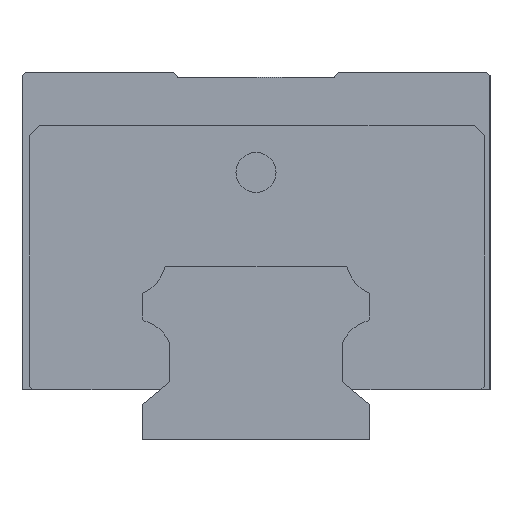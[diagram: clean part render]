
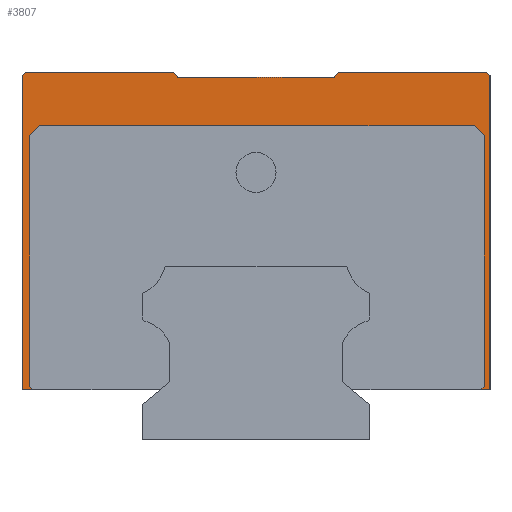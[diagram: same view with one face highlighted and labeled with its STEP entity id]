
A CAD part, left-side view. The second image highlights one B-rep face of the part: STEP entity #3807.
In plain terms, the highlighted planar face has unit normal (-1, 0, 0).
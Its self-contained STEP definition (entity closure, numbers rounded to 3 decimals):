
#7 = LINE ( 'NONE', #392, #1854 ) ;
#96 = VERTEX_POINT ( 'NONE', #3557 ) ;
#138 = CARTESIAN_POINT ( 'NONE',  ( -61.5, 35., 7.5 ) ) ;
#148 = DIRECTION ( 'NONE',  ( 0., 1., 0. ) ) ;
#189 = VERTEX_POINT ( 'NONE', #3499 ) ;
#211 = CARTESIAN_POINT ( 'NONE',  ( -61.5, 33.872, 8. ) ) ;
#259 = VECTOR ( 'NONE', #2197, 1000. ) ;
#335 = DIRECTION ( 'NONE',  ( 0., 0., 1. ) ) ;
#392 = CARTESIAN_POINT ( 'NONE',  ( -61.5, -32.628, 47. ) ) ;
#409 = CARTESIAN_POINT ( 'NONE',  ( -61.5, 32.372, 47. ) ) ;
#422 = LINE ( 'NONE', #3982, #4212 ) ;
#436 = CARTESIAN_POINT ( 'NONE',  ( -61.5, 34.5, 55. ) ) ;
#456 = DIRECTION ( 'NONE',  ( 0., 0.707, -0.707 ) ) ;
#488 = VERTEX_POINT ( 'NONE', #5396 ) ;
#492 = LINE ( 'NONE', #2287, #3975 ) ;
#551 = CARTESIAN_POINT ( 'NONE',  ( -61.5, -35., 55. ) ) ;
#599 = ORIENTED_EDGE ( 'NONE', *, *, #4643, .F. ) ;
#637 = LINE ( 'NONE', #2350, #1347 ) ;
#704 = DIRECTION ( 'NONE',  ( 0., -1., 0. ) ) ;
#712 = VERTEX_POINT ( 'NONE', #138 ) ;
#720 = VERTEX_POINT ( 'NONE', #2804 ) ;
#748 = ORIENTED_EDGE ( 'NONE', *, *, #955, .F. ) ;
#805 = CARTESIAN_POINT ( 'NONE',  ( -61.5, 33.872, 45.5 ) ) ;
#854 = ORIENTED_EDGE ( 'NONE', *, *, #1050, .T. ) ;
#920 = EDGE_CURVE ( 'NONE', #3016, #1708, #5131, .T. ) ;
#935 = LINE ( 'NONE', #2386, #4632 ) ;
#955 = EDGE_CURVE ( 'NONE', #1444, #3124, #422, .T. ) ;
#993 = EDGE_CURVE ( 'NONE', #1708, #1599, #7, .T. ) ;
#1050 = EDGE_CURVE ( 'NONE', #3634, #3124, #1764, .T. ) ;
#1082 = CARTESIAN_POINT ( 'NONE',  ( -61.5, 32.372, 47. ) ) ;
#1087 = ORIENTED_EDGE ( 'NONE', *, *, #3044, .F. ) ;
#1099 = ORIENTED_EDGE ( 'NONE', *, *, #2434, .F. ) ;
#1137 = VECTOR ( 'NONE', #5197, 1000. ) ;
#1139 = LINE ( 'NONE', #4700, #3875 ) ;
#1172 = LINE ( 'NONE', #1940, #2098 ) ;
#1203 = CARTESIAN_POINT ( 'NONE',  ( -61.5, -35., 55. ) ) ;
#1268 = EDGE_CURVE ( 'NONE', #3634, #96, #5562, .T. ) ;
#1293 = DIRECTION ( 'NONE',  ( 0., 0.707, 0.707 ) ) ;
#1323 = EDGE_LOOP ( 'NONE', ( #2546, #1572, #3893, #3979, #854, #748, #5055, #4167, #2096, #599, #4576, #5590, #3091, #1823, #1099, #1087, #3702, #4892 ) ) ;
#1347 = VECTOR ( 'NONE', #3260, 1000. ) ;
#1401 = DIRECTION ( 'NONE',  ( 0., 1., 0. ) ) ;
#1440 = CARTESIAN_POINT ( 'NONE',  ( -61.5, 11.667, 54.25 ) ) ;
#1444 = VERTEX_POINT ( 'NONE', #4057 ) ;
#1514 = EDGE_CURVE ( 'NONE', #720, #712, #935, .T. ) ;
#1553 = DIRECTION ( 'NONE',  ( 0., 0., 1. ) ) ;
#1572 = ORIENTED_EDGE ( 'NONE', *, *, #1634, .F. ) ;
#1599 = VERTEX_POINT ( 'NONE', #1082 ) ;
#1630 = EDGE_CURVE ( 'NONE', #712, #189, #1139, .T. ) ;
#1634 = EDGE_CURVE ( 'NONE', #5702, #488, #5117, .T. ) ;
#1708 = VERTEX_POINT ( 'NONE', #3492 ) ;
#1764 = LINE ( 'NONE', #5326, #4302 ) ;
#1823 = ORIENTED_EDGE ( 'NONE', *, *, #4560, .F. ) ;
#1854 = VECTOR ( 'NONE', #5799, 1000. ) ;
#1940 = CARTESIAN_POINT ( 'NONE',  ( -61.5, 35., 55. ) ) ;
#2017 = CARTESIAN_POINT ( 'NONE',  ( -61.5, -12.296, 55. ) ) ;
#2060 = EDGE_CURVE ( 'NONE', #1444, #2634, #5575, .T. ) ;
#2082 = CARTESIAN_POINT ( 'NONE',  ( -61.5, 12.296, 55. ) ) ;
#2085 = DIRECTION ( 'NONE',  ( 0., -0.707, 0.707 ) ) ;
#2096 = ORIENTED_EDGE ( 'NONE', *, *, #3700, .T. ) ;
#2098 = VECTOR ( 'NONE', #704, 1000. ) ;
#2141 = DIRECTION ( 'NONE',  ( 0., 1., 0. ) ) ;
#2150 = CARTESIAN_POINT ( 'NONE',  ( -61.5, -11.667, 54.25 ) ) ;
#2193 = AXIS2_PLACEMENT_3D ( 'NONE', #551, #3709, #148 ) ;
#2197 = DIRECTION ( 'NONE',  ( 0., 0.707, -0.707 ) ) ;
#2287 = CARTESIAN_POINT ( 'NONE',  ( -61.5, -35., 7.5 ) ) ;
#2305 = CARTESIAN_POINT ( 'NONE',  ( -61.5, -33.628, 7.5 ) ) ;
#2320 = EDGE_CURVE ( 'NONE', #3673, #189, #3251, .T. ) ;
#2349 = CARTESIAN_POINT ( 'NONE',  ( -61.5, -34.5, 55. ) ) ;
#2350 = CARTESIAN_POINT ( 'NONE',  ( -61.5, 11.667, 54.25 ) ) ;
#2379 = PLANE ( 'NONE',  #2193 ) ;
#2386 = CARTESIAN_POINT ( 'NONE',  ( -61.5, 14.65, 7.5 ) ) ;
#2434 = EDGE_CURVE ( 'NONE', #5616, #3608, #5184, .T. ) ;
#2529 = CARTESIAN_POINT ( 'NONE',  ( -61.5, -33.628, 7.5 ) ) ;
#2546 = ORIENTED_EDGE ( 'NONE', *, *, #5657, .F. ) ;
#2634 = VERTEX_POINT ( 'NONE', #2150 ) ;
#2742 = VERTEX_POINT ( 'NONE', #1440 ) ;
#2757 = VECTOR ( 'NONE', #2141, 1000. ) ;
#2804 = CARTESIAN_POINT ( 'NONE',  ( -61.5, 33.372, 7.5 ) ) ;
#2920 = VECTOR ( 'NONE', #335, 1000. ) ;
#2944 = LINE ( 'NONE', #211, #3034 ) ;
#3016 = VERTEX_POINT ( 'NONE', #4461 ) ;
#3034 = VECTOR ( 'NONE', #4615, 1000. ) ;
#3044 = EDGE_CURVE ( 'NONE', #1599, #5616, #4934, .T. ) ;
#3069 = VECTOR ( 'NONE', #4354, 1000. ) ;
#3081 = LINE ( 'NONE', #3496, #2757 ) ;
#3091 = ORIENTED_EDGE ( 'NONE', *, *, #1514, .F. ) ;
#3124 = VERTEX_POINT ( 'NONE', #2349 ) ;
#3251 = LINE ( 'NONE', #5458, #5742 ) ;
#3260 = DIRECTION ( 'NONE',  ( 0., 0.643, 0.766 ) ) ;
#3396 = LINE ( 'NONE', #5193, #2920 ) ;
#3463 = EDGE_CURVE ( 'NONE', #2634, #2742, #3081, .T. ) ;
#3492 = CARTESIAN_POINT ( 'NONE',  ( -61.5, -32.628, 47. ) ) ;
#3496 = CARTESIAN_POINT ( 'NONE',  ( -61.5, -11.667, 54.25 ) ) ;
#3499 = CARTESIAN_POINT ( 'NONE',  ( -61.5, 35., 54.5 ) ) ;
#3554 = VECTOR ( 'NONE', #5646, 1000. ) ;
#3557 = CARTESIAN_POINT ( 'NONE',  ( -61.5, -35., 7.5 ) ) ;
#3570 = EDGE_CURVE ( 'NONE', #96, #5702, #492, .T. ) ;
#3608 = VERTEX_POINT ( 'NONE', #5465 ) ;
#3634 = VERTEX_POINT ( 'NONE', #4523 ) ;
#3673 = VERTEX_POINT ( 'NONE', #436 ) ;
#3700 = EDGE_CURVE ( 'NONE', #2742, #5171, #637, .T. ) ;
#3702 = ORIENTED_EDGE ( 'NONE', *, *, #993, .F. ) ;
#3709 = DIRECTION ( 'NONE',  ( 1., 0., 0. ) ) ;
#3807 = ADVANCED_FACE ( 'NONE', ( #4581 ), #2379, .F. ) ;
#3875 = VECTOR ( 'NONE', #1553, 1000. ) ;
#3893 = ORIENTED_EDGE ( 'NONE', *, *, #3570, .F. ) ;
#3923 = CARTESIAN_POINT ( 'NONE',  ( -61.5, -34.128, 45.5 ) ) ;
#3975 = VECTOR ( 'NONE', #1401, 1000. ) ;
#3979 = ORIENTED_EDGE ( 'NONE', *, *, #1268, .F. ) ;
#3982 = CARTESIAN_POINT ( 'NONE',  ( -61.5, 35., 55. ) ) ;
#4057 = CARTESIAN_POINT ( 'NONE',  ( -61.5, -12.296, 55. ) ) ;
#4167 = ORIENTED_EDGE ( 'NONE', *, *, #3463, .T. ) ;
#4212 = VECTOR ( 'NONE', #4447, 1000. ) ;
#4302 = VECTOR ( 'NONE', #1293, 1000. ) ;
#4354 = DIRECTION ( 'NONE',  ( 0., 0., -1. ) ) ;
#4393 = VECTOR ( 'NONE', #5709, 1000. ) ;
#4447 = DIRECTION ( 'NONE',  ( 0., -1., 0. ) ) ;
#4461 = CARTESIAN_POINT ( 'NONE',  ( -61.5, -34.128, 45.5 ) ) ;
#4523 = CARTESIAN_POINT ( 'NONE',  ( -61.5, -35., 54.5 ) ) ;
#4560 = EDGE_CURVE ( 'NONE', #3608, #720, #2944, .T. ) ;
#4576 = ORIENTED_EDGE ( 'NONE', *, *, #2320, .T. ) ;
#4581 = FACE_OUTER_BOUND ( 'NONE', #1323, .T. ) ;
#4615 = DIRECTION ( 'NONE',  ( 0., -0.707, -0.707 ) ) ;
#4632 = VECTOR ( 'NONE', #5524, 1000. ) ;
#4643 = EDGE_CURVE ( 'NONE', #3673, #5171, #1172, .T. ) ;
#4700 = CARTESIAN_POINT ( 'NONE',  ( -61.5, 35., 7.5 ) ) ;
#4892 = ORIENTED_EDGE ( 'NONE', *, *, #920, .F. ) ;
#4934 = LINE ( 'NONE', #409, #259 ) ;
#5055 = ORIENTED_EDGE ( 'NONE', *, *, #2060, .T. ) ;
#5117 = LINE ( 'NONE', #2529, #5384 ) ;
#5131 = LINE ( 'NONE', #3923, #4393 ) ;
#5171 = VERTEX_POINT ( 'NONE', #2082 ) ;
#5184 = LINE ( 'NONE', #5510, #3069 ) ;
#5193 = CARTESIAN_POINT ( 'NONE',  ( -61.5, -34.128, 8. ) ) ;
#5197 = DIRECTION ( 'NONE',  ( 0., 0.643, -0.766 ) ) ;
#5326 = CARTESIAN_POINT ( 'NONE',  ( -61.5, -35., 54.5 ) ) ;
#5384 = VECTOR ( 'NONE', #2085, 1000. ) ;
#5396 = CARTESIAN_POINT ( 'NONE',  ( -61.5, -34.128, 8. ) ) ;
#5458 = CARTESIAN_POINT ( 'NONE',  ( -61.5, 34.5, 55. ) ) ;
#5465 = CARTESIAN_POINT ( 'NONE',  ( -61.5, 33.872, 8. ) ) ;
#5510 = CARTESIAN_POINT ( 'NONE',  ( -61.5, 33.872, 45.5 ) ) ;
#5524 = DIRECTION ( 'NONE',  ( 0., 1., 0. ) ) ;
#5562 = LINE ( 'NONE', #1203, #3554 ) ;
#5575 = LINE ( 'NONE', #2017, #1137 ) ;
#5590 = ORIENTED_EDGE ( 'NONE', *, *, #1630, .F. ) ;
#5616 = VERTEX_POINT ( 'NONE', #805 ) ;
#5646 = DIRECTION ( 'NONE',  ( 0., 0., -1. ) ) ;
#5657 = EDGE_CURVE ( 'NONE', #488, #3016, #3396, .T. ) ;
#5702 = VERTEX_POINT ( 'NONE', #2305 ) ;
#5709 = DIRECTION ( 'NONE',  ( 0., 0.707, 0.707 ) ) ;
#5742 = VECTOR ( 'NONE', #456, 1000. ) ;
#5799 = DIRECTION ( 'NONE',  ( 0., 1., 0. ) ) ;
